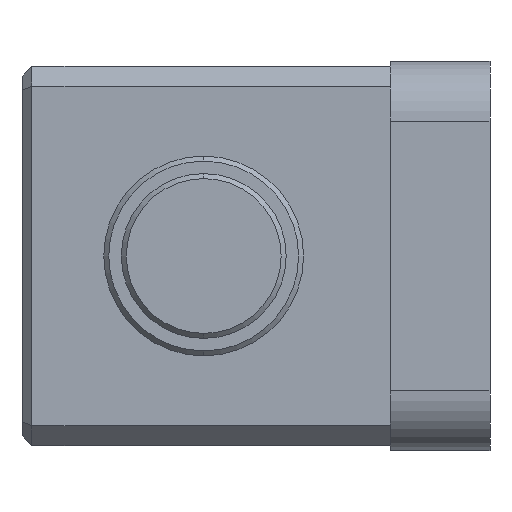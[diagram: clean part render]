
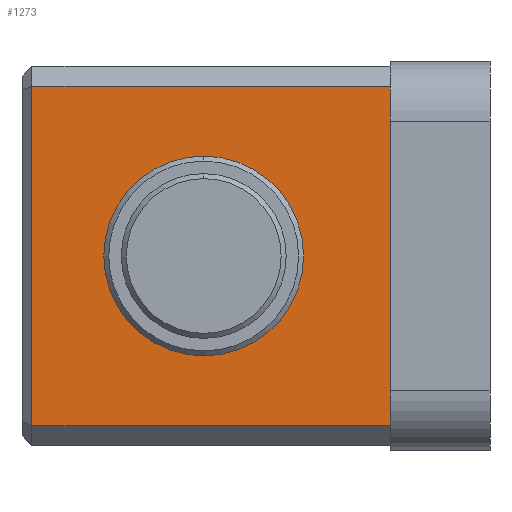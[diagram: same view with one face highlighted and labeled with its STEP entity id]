
A CAD part, left-side view. The second image highlights one B-rep face of the part: STEP entity #1273.
In plain terms, the highlighted planar face has unit normal (-1, 0, 0).
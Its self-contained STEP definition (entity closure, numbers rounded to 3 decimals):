
#37 = AXIS2_PLACEMENT_3D ( 'NONE', #2030, #725, #287 ) ;
#64 = EDGE_CURVE ( 'NONE', #2065, #1042, #2087, .T. ) ;
#96 = CARTESIAN_POINT ( 'NONE',  ( -8., 55.85, 17. ) ) ;
#133 = CARTESIAN_POINT ( 'NONE',  ( -8., 20., -17. ) ) ;
#242 = DIRECTION ( 'NONE',  ( 0., 1., 0. ) ) ;
#262 = AXIS2_PLACEMENT_3D ( 'NONE', #2324, #592, #1370 ) ;
#287 = DIRECTION ( 'NONE',  ( 0., 0., 1. ) ) ;
#370 = FACE_OUTER_BOUND ( 'NONE', #483, .T. ) ;
#418 = EDGE_CURVE ( 'NONE', #977, #1990, #2306, .T. ) ;
#452 = EDGE_CURVE ( 'NONE', #1990, #977, #816, .T. ) ;
#454 = DIRECTION ( 'NONE',  ( 0., -1., 0. ) ) ;
#483 = EDGE_LOOP ( 'NONE', ( #1817, #1785, #1395, #814 ) ) ;
#518 = CARTESIAN_POINT ( 'NONE',  ( -8., 38.66, -10. ) ) ;
#556 = DIRECTION ( 'NONE',  ( 0., 0., -1. ) ) ;
#562 = AXIS2_PLACEMENT_3D ( 'NONE', #1163, #2461, #2282 ) ;
#583 = EDGE_LOOP ( 'NONE', ( #1596, #1866 ) ) ;
#592 = DIRECTION ( 'NONE',  ( 1., 0., 0. ) ) ;
#725 = DIRECTION ( 'NONE',  ( 1., 0., 0. ) ) ;
#796 = CARTESIAN_POINT ( 'NONE',  ( -8., 55.85, -17. ) ) ;
#809 = CARTESIAN_POINT ( 'NONE',  ( -8., 20., -19. ) ) ;
#814 = ORIENTED_EDGE ( 'NONE', *, *, #2350, .F. ) ;
#816 = CIRCLE ( 'NONE', #37, 10. ) ;
#970 = VECTOR ( 'NONE', #242, 1000. ) ;
#977 = VERTEX_POINT ( 'NONE', #2069 ) ;
#1008 = DIRECTION ( 'NONE',  ( 0., 0., -1. ) ) ;
#1042 = VERTEX_POINT ( 'NONE', #796 ) ;
#1147 = CARTESIAN_POINT ( 'NONE',  ( -8., 55.85, -17. ) ) ;
#1163 = CARTESIAN_POINT ( 'NONE',  ( -8., 56.85, 19. ) ) ;
#1266 = LINE ( 'NONE', #1650, #1308 ) ;
#1273 = ADVANCED_FACE ( 'NONE', ( #1717, #370 ), #1693, .T. ) ;
#1308 = VECTOR ( 'NONE', #454, 1000. ) ;
#1370 = DIRECTION ( 'NONE',  ( 0., 0., 1. ) ) ;
#1395 = ORIENTED_EDGE ( 'NONE', *, *, #1793, .T. ) ;
#1415 = EDGE_CURVE ( 'NONE', #2384, #2065, #2034, .T. ) ;
#1596 = ORIENTED_EDGE ( 'NONE', *, *, #418, .T. ) ;
#1650 = CARTESIAN_POINT ( 'NONE',  ( -8., 20., -17. ) ) ;
#1682 = VECTOR ( 'NONE', #1008, 1000. ) ;
#1693 = PLANE ( 'NONE',  #562 ) ;
#1717 = FACE_BOUND ( 'NONE', #583, .T. ) ;
#1785 = ORIENTED_EDGE ( 'NONE', *, *, #64, .T. ) ;
#1793 = EDGE_CURVE ( 'NONE', #1042, #2074, #1266, .T. ) ;
#1814 = CARTESIAN_POINT ( 'NONE',  ( -8., 56.85, 17. ) ) ;
#1817 = ORIENTED_EDGE ( 'NONE', *, *, #1415, .T. ) ;
#1855 = VECTOR ( 'NONE', #556, 1000. ) ;
#1866 = ORIENTED_EDGE ( 'NONE', *, *, #452, .T. ) ;
#1987 = LINE ( 'NONE', #809, #1682 ) ;
#1990 = VERTEX_POINT ( 'NONE', #518 ) ;
#2030 = CARTESIAN_POINT ( 'NONE',  ( -8., 38.66, 0. ) ) ;
#2034 = LINE ( 'NONE', #1814, #970 ) ;
#2065 = VERTEX_POINT ( 'NONE', #96 ) ;
#2069 = CARTESIAN_POINT ( 'NONE',  ( -8., 38.66, 10. ) ) ;
#2074 = VERTEX_POINT ( 'NONE', #133 ) ;
#2087 = LINE ( 'NONE', #1147, #1855 ) ;
#2202 = CARTESIAN_POINT ( 'NONE',  ( -8., 20., 17. ) ) ;
#2282 = DIRECTION ( 'NONE',  ( 0., 0., 1. ) ) ;
#2306 = CIRCLE ( 'NONE', #262, 10. ) ;
#2324 = CARTESIAN_POINT ( 'NONE',  ( -8., 38.66, 0. ) ) ;
#2350 = EDGE_CURVE ( 'NONE', #2384, #2074, #1987, .T. ) ;
#2384 = VERTEX_POINT ( 'NONE', #2202 ) ;
#2461 = DIRECTION ( 'NONE',  ( -1., 0., 0. ) ) ;
